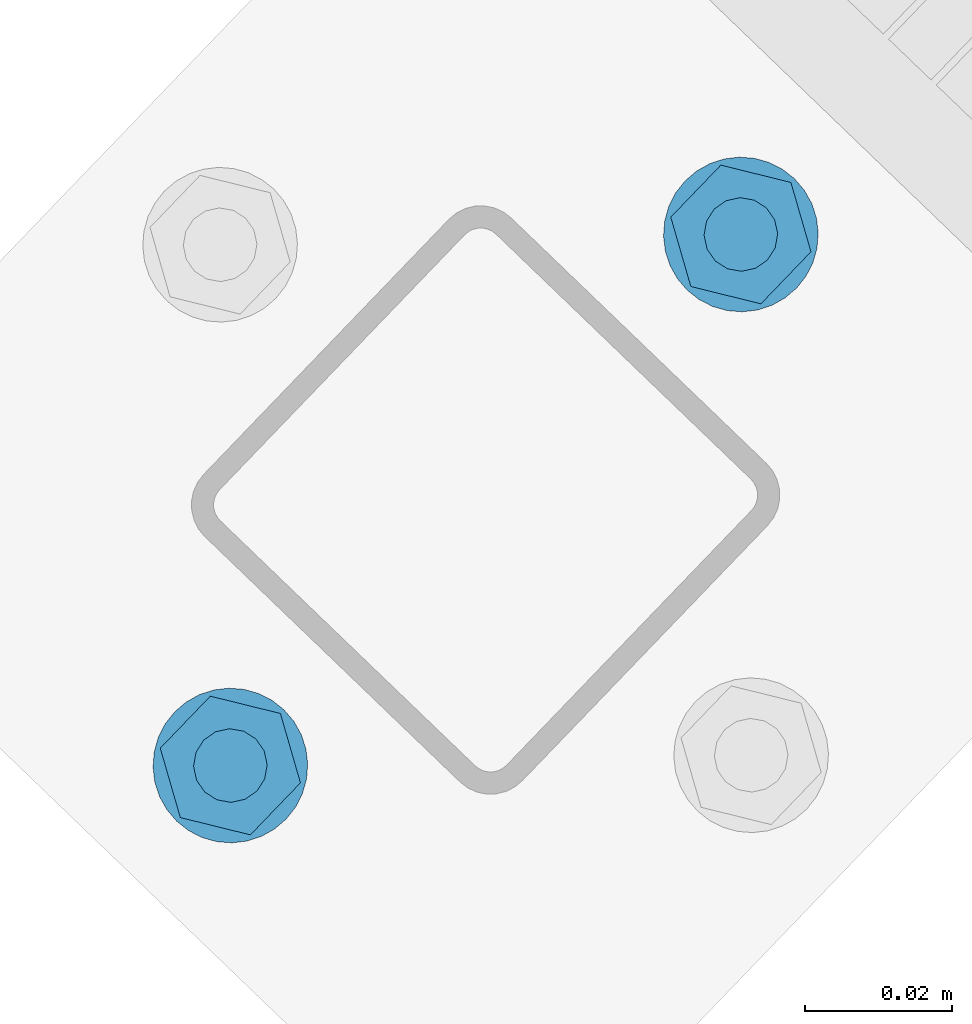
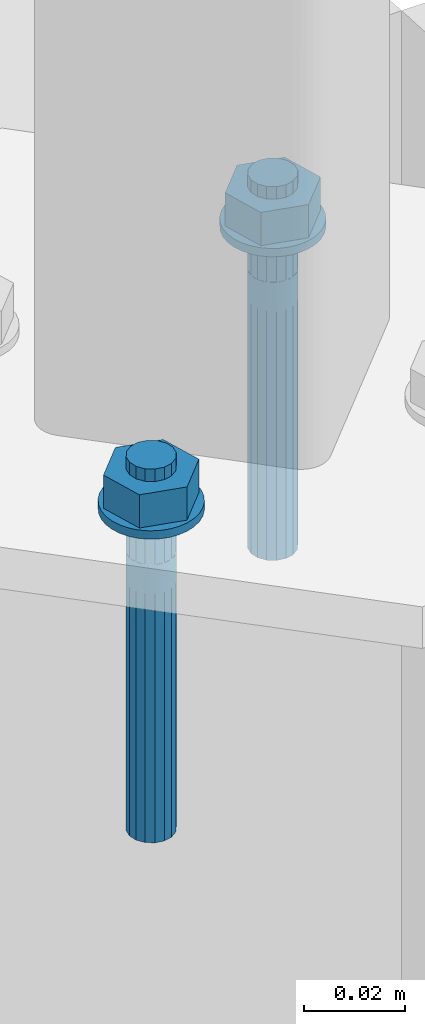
# One storey, part 190 of 288: 2 mechanical fasteners.
"""IFC2X3 building model written with IfcOpenShell, lengths in millimetres."""

from ifc_helpers import new_model, entity, si_unit, converted_unit, origin_with_axes, place, context, project, spatial, faceted_brep, element, save


model = new_model("IFC2X3")

# Units and contexts
model_context = context("Model", 3, precision=1e-09, world=origin_with_axes())
ifc_project = project(units=[si_unit("LENGTHUNIT", "METRE", prefix="MILLI"), si_unit("AREAUNIT", "SQUARE_METRE"), si_unit("VOLUMEUNIT", "CUBIC_METRE"), converted_unit("PLANEANGLEUNIT", "DEGREE", entity("IfcPlaneAngleMeasure", 0.01745329), si_unit("PLANEANGLEUNIT", "RADIAN"), dimensions=[0, 0, 0, 0, 0, 0, 0])], contexts=[model_context])

# Site, building, storey
site_placement = place(None, origin_with_axes())
site = spatial("IfcSite", under=ifc_project, at=site_placement, Name="Remont ?wietlik?w nad MC w NCPP w Opolu", CompositionType="ELEMENT")
building_placement = place(site_placement, origin_with_axes())
building = spatial("IfcBuilding", under=site, at=building_placement, Name="Konstrukcja 1", CompositionType="ELEMENT")
storey_placement = place(building_placement, origin_with_axes())
storey = spatial("IfcBuildingStorey", under=building, at=storey_placement, Name="Default Storey", CompositionType="ELEMENT", Elevation=0.0)

# Mechanical fasteners
mechanical_fastener_1_placement = place(None, origin_with_axes())
element("IfcMechanicalFastener", 1, at=mechanical_fastener_1_placement, inside=storey, ObjectType="Anchor_Bolt", NominalDiameter=10.0, NominalLength=90.0, context=model_context, shape_type="Brep", body=[
    faceted_brep([(-80.926075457, -69.029824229, 22.001000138), (-80.926075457, -69.029824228, 20.001000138), (-82.200250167, -70.646402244, 20.001000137), (-82.200250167, -70.646402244, 22.001000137), (-83.134563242, -72.48049732, 20.001000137), (-83.134563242, -72.48049732, 22.001000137), (-83.693109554, -74.461626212, 20.001000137), (-83.693109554, -74.461626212, 22.001000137), (-83.854424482, -76.513655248, 20.001000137), (-83.854424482, -76.513655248, 22.001000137), (-83.612308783, -78.557726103, 20.001000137), (-83.612308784, -78.557726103, 22.001000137), (-82.976066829, -80.51528628, 20.001000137), (-82.976066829, -80.51528628, 22.001000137), (-81.970149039, -82.311107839, 20.001000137), (-81.97014904, -82.311107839, 22.001000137), (-80.633212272, -83.876178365, 20.001000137), (-80.633212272, -83.876178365, 22.001000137), (-79.016634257, -85.150353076, 20.001000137), (-79.016634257, -85.150353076, 22.001000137), (-77.182539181, -86.08466615, 20.001000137), (-77.182539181, -86.084666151, 22.001000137), (-75.201410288, -86.643212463, 20.001000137), (-75.201410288, -86.643212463, 22.001000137), (-73.149381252, -86.80452739, 20.001000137), (-73.149381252, -86.804527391, 22.001000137), (-71.105310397, -86.562411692, 20.001000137), (-71.105310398, -86.562411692, 22.001000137), (-69.147750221, -85.926169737, 20.001000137), (-69.147750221, -85.926169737, 22.001000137), (-67.351928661, -84.920251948, 20.001000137), (-67.351928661, -84.920251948, 22.001000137), (-65.786858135, -83.58331518, 20.001000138), (-65.786858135, -83.583315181, 22.001000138), (-64.512683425, -81.966737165, 20.001000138), (-64.512683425, -81.966737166, 22.001000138), (-63.57837035, -80.132642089, 20.001000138), (-63.57837035, -80.132642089, 22.001000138), (-63.019824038, -78.151513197, 20.001000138), (-63.019824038, -78.151513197, 22.001000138), (-62.85850911, -76.099484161, 20.001000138), (-62.85850911, -76.099484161, 22.001000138), (-63.100624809, -74.055413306, 20.001000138), (-63.100624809, -74.055413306, 22.001000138), (-63.736866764, -72.097853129, 20.001000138), (-63.736866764, -72.097853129, 22.001000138), (-64.742784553, -70.30203157, 20.001000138), (-64.742784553, -70.30203157, 22.001000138), (-66.07972132, -68.736961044, 20.001000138), (-66.07972132, -68.736961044, 22.001000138), (-67.696299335, -67.462786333, 20.001000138), (-67.696299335, -67.462786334, 22.001000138), (-69.530394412, -66.528473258, 20.001000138), (-69.530394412, -66.528473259, 22.001000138), (-71.511523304, -65.969926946, 20.001000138), (-71.511523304, -65.969926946, 22.001000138), (-73.56355234, -65.808612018, 20.001000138), (-73.56355234, -65.808612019, 22.001000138), (-75.607623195, -66.050727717, 20.001000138), (-75.607623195, -66.050727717, 22.001000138), (-77.565183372, -66.686969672, 20.001000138), (-77.565183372, -66.686969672, 22.001000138), (-79.361004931, -67.692887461, 20.001000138), (-79.361004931, -67.692887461, 22.001000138)], [[[0, 1, 2, 3]], [[3, 2, 4, 5]], [[5, 4, 6, 7]], [[7, 6, 8, 9]], [[9, 8, 10, 11]], [[11, 10, 12, 13]], [[13, 12, 14, 15]], [[15, 14, 16, 17]], [[17, 16, 18, 19]], [[19, 18, 20, 21]], [[21, 20, 22, 23]], [[23, 22, 24, 25]], [[25, 24, 26, 27]], [[27, 26, 28, 29]], [[29, 28, 30, 31]], [[31, 30, 32, 33]], [[33, 32, 34, 35]], [[35, 34, 36, 37]], [[37, 36, 38, 39]], [[39, 38, 40, 41]], [[41, 40, 42, 43]], [[43, 42, 44, 45]], [[45, 44, 46, 47]], [[47, 46, 48, 49]], [[49, 48, 50, 51]], [[51, 50, 52, 53]], [[53, 52, 54, 55]], [[55, 54, 56, 57]], [[57, 56, 58, 59]], [[59, 58, 60, 61]], [[61, 60, 62, 63]], [[63, 62, 1, 0]], [[0, 3, 5, 7, 9, 11, 13, 15, 17, 19, 21, 23, 25, 27, 29, 31, 33, 35, 37, 39, 41, 43, 45, 47, 49, 51, 53, 55, 57, 59, 61, 63]], [[1, 62, 60, 58, 56, 54, 52, 50, 48, 46, 44, 42, 40, 38, 36, 34, 32, 30, 28, 26, 24, 22, 20, 18, 16, 14, 12, 10, 8, 6, 4, 2]]]),
    faceted_brep([(-70.633839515, -85.720777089, 22.001000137), (-70.633839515, -85.72077709, 30.001000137), (-80.148095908, -83.371537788, 30.001000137), (-80.148095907, -83.371537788, 22.001000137), (-82.870723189, -73.957330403, 30.001000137), (-82.870723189, -73.957330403, 22.001000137), (-76.079094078, -66.89236232, 30.001000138), (-76.079094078, -66.89236232, 22.001000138), (-66.564837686, -69.241601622, 30.001000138), (-66.564837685, -69.241601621, 22.001000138), (-63.842210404, -78.655809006, 30.001000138), (-63.842210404, -78.655809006, 22.001000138)], [[[0, 1, 2, 3]], [[3, 2, 4, 5]], [[5, 4, 6, 7]], [[7, 6, 8, 9]], [[9, 8, 10, 11]], [[11, 10, 1, 0]], [[4, 2, 1, 10, 8, 6]], [[0, 3, 5, 7, 9, 11]]]),
    faceted_brep([(-76.961042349, -72.841452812, 33.001000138), (-76.961042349, -72.841452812, 30.001000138), (-78.012703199, -74.484630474, 30.001000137), (-78.0127032, -74.484630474, 33.001000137), (-78.355494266, -76.405181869, 30.001000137), (-78.355494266, -76.405181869, 33.001000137), (-77.937228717, -78.310720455, 30.001000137), (-77.937228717, -78.310720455, 33.001000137), (-76.82158369, -79.911145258, 30.001000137), (-76.82158369, -79.911145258, 33.001000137), (-75.178406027, -80.962806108, 30.001000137), (-75.178406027, -80.962806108, 33.001000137), (-73.257854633, -81.305597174, 30.001000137), (-73.257854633, -81.305597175, 33.001000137), (-71.352316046, -80.887331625, 30.001000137), (-71.352316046, -80.887331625, 33.001000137), (-69.751891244, -79.771686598, 30.001000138), (-69.751891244, -79.771686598, 33.001000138), (-68.700230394, -78.128508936, 30.001000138), (-68.700230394, -78.128508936, 33.001000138), (-68.357439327, -76.207957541, 30.001000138), (-68.357439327, -76.207957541, 33.001000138), (-68.775704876, -74.302418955, 30.001000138), (-68.775704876, -74.302418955, 33.001000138), (-69.891349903, -72.701994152, 30.001000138), (-69.891349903, -72.701994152, 33.001000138), (-71.534527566, -71.650333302, 30.001000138), (-71.534527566, -71.650333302, 33.001000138), (-73.45507896, -71.307542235, 30.001000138), (-73.45507896, -71.307542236, 33.001000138), (-75.360617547, -71.725807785, 30.001000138), (-75.360617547, -71.725807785, 33.001000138)], [[[0, 1, 2, 3]], [[3, 2, 4, 5]], [[5, 4, 6, 7]], [[7, 6, 8, 9]], [[9, 8, 10, 11]], [[11, 10, 12, 13]], [[13, 12, 14, 15]], [[15, 14, 16, 17]], [[17, 16, 18, 19]], [[19, 18, 20, 21]], [[21, 20, 22, 23]], [[23, 22, 24, 25]], [[25, 24, 26, 27]], [[27, 26, 28, 29]], [[29, 28, 30, 31]], [[31, 30, 1, 0]], [[0, 3, 5, 7, 9, 11, 13, 15, 17, 19, 21, 23, 25, 27, 29, 31]], [[1, 30, 28, 26, 24, 22, 20, 18, 16, 14, 12, 10, 8, 6, 4, 2]]]),
    faceted_brep([(-76.961042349, -72.841452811, 20.001000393), (-76.961042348, -72.841452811, 10.001000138), (-78.012703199, -74.484630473, 10.001000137), (-78.012703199, -74.484630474, 20.001000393), (-78.355494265, -76.405181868, 10.001000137), (-78.355494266, -76.405181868, 20.001000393), (-77.937228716, -78.310720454, 10.001000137), (-77.937228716, -78.310720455, 20.001000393), (-76.821583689, -79.911145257, 10.001000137), (-76.82158369, -79.911145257, 20.001000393), (-75.178406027, -80.962806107, 10.001000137), (-75.178406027, -80.962806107, 20.001000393), (-73.257854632, -81.305597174, 10.001000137), (-73.257854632, -81.305597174, 20.001000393), (-71.352316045, -80.887331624, 10.001000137), (-71.352316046, -80.887331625, 20.001000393), (-69.751891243, -79.771686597, 10.001000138), (-69.751891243, -79.771686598, 20.001000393), (-68.700230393, -78.128508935, 10.001000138), (-68.700230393, -78.128508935, 20.001000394), (-68.357439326, -76.20795754, 10.001000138), (-68.357439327, -76.207957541, 20.001000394), (-68.775704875, -74.302418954, 10.001000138), (-68.775704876, -74.302418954, 20.001000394), (-69.891349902, -72.701994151, 10.001000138), (-69.891349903, -72.701994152, 20.001000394), (-71.534527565, -71.650333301, 10.001000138), (-71.534527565, -71.650333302, 20.001000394), (-73.45507896, -71.307542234, 10.001000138), (-73.45507896, -71.307542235, 20.001000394), (-75.360617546, -71.725807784, 10.001000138), (-75.360617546, -71.725807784, 20.001000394)], [[[0, 1, 2, 3]], [[3, 2, 4, 5]], [[5, 4, 6, 7]], [[7, 6, 8, 9]], [[9, 8, 10, 11]], [[11, 10, 12, 13]], [[13, 12, 14, 15]], [[15, 14, 16, 17]], [[17, 16, 18, 19]], [[19, 18, 20, 21]], [[21, 20, 22, 23]], [[23, 22, 24, 25]], [[25, 24, 26, 27]], [[27, 26, 28, 29]], [[29, 28, 30, 31]], [[31, 30, 1, 0]], [[0, 3, 5, 7, 9, 11, 13, 15, 17, 19, 21, 23, 25, 27, 29, 31]], [[1, 30, 28, 26, 24, 22, 20, 18, 16, 14, 12, 10, 8, 6, 4, 2]]]),
    faceted_brep([(-76.961042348, -72.841452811, 10.000999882), (-76.961042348, -72.84145281, 3.001000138), (-77.56779221, -73.611251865, 3.001000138), (-77.567792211, -73.611251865, 10.000999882), (-78.012703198, -74.484630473, 3.001000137), (-78.012703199, -74.484630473, 10.000999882), (-78.278677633, -75.428025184, 3.001000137), (-78.278677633, -75.428025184, 10.000999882), (-78.355494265, -76.405181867, 3.001000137), (-78.355494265, -76.405181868, 10.000999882), (-78.240201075, -77.378548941, 3.001000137), (-78.240201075, -77.378548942, 10.000999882), (-77.937228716, -78.310720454, 3.001000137), (-77.937228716, -78.310720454, 10.000999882), (-77.458220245, -79.165873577, 3.001000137), (-77.458220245, -79.165873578, 10.000999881), (-76.821583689, -79.911145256, 3.001000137), (-76.821583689, -79.911145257, 10.000999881), (-76.051784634, -80.517895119, 3.001000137), (-76.051784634, -80.517895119, 10.000999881), (-75.178406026, -80.962806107, 3.001000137), (-75.178406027, -80.962806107, 10.000999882), (-74.235011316, -81.228780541, 3.001000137), (-74.235011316, -81.228780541, 10.000999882), (-73.257854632, -81.305597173, 3.001000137), (-73.257854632, -81.305597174, 10.000999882), (-72.284487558, -81.190303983, 3.001000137), (-72.284487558, -81.190303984, 10.000999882), (-71.352316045, -80.887331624, 3.001000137), (-71.352316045, -80.887331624, 10.000999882), (-70.497162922, -80.408323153, 3.001000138), (-70.497162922, -80.408323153, 10.000999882), (-69.751891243, -79.771686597, 3.001000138), (-69.751891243, -79.771686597, 10.000999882), (-69.145141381, -79.001887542, 3.001000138), (-69.145141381, -79.001887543, 10.000999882), (-68.700230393, -78.128508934, 3.001000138), (-68.700230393, -78.128508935, 10.000999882), (-68.434255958, -77.185114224, 3.001000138), (-68.434255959, -77.185114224, 10.000999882), (-68.357439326, -76.20795754, 3.001000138), (-68.357439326, -76.20795754, 10.000999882), (-68.472732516, -75.234590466, 3.001000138), (-68.472732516, -75.234590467, 10.000999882), (-68.775704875, -74.302418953, 3.001000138), (-68.775704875, -74.302418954, 10.000999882), (-69.254713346, -73.44726583, 3.001000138), (-69.254713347, -73.44726583, 10.000999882), (-69.891349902, -72.701994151, 3.001000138), (-69.891349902, -72.701994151, 10.000999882), (-70.661148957, -72.095244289, 3.001000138), (-70.661148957, -72.095244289, 10.000999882), (-71.534527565, -71.650333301, 3.001000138), (-71.534527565, -71.650333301, 10.000999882), (-72.477922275, -71.384358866, 3.001000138), (-72.477922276, -71.384358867, 10.000999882), (-73.455078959, -71.307542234, 3.001000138), (-73.45507896, -71.307542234, 10.000999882), (-74.428446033, -71.422835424, 3.001000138), (-74.428446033, -71.422835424, 10.000999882), (-75.360617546, -71.725807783, 3.001000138), (-75.360617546, -71.725807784, 10.000999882), (-76.215770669, -72.204816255, 3.001000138), (-76.215770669, -72.204816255, 10.000999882)], [[[0, 1, 2, 3]], [[3, 2, 4, 5]], [[5, 4, 6, 7]], [[7, 6, 8, 9]], [[9, 8, 10, 11]], [[11, 10, 12, 13]], [[13, 12, 14, 15]], [[15, 14, 16, 17]], [[17, 16, 18, 19]], [[19, 18, 20, 21]], [[21, 20, 22, 23]], [[23, 22, 24, 25]], [[25, 24, 26, 27]], [[27, 26, 28, 29]], [[29, 28, 30, 31]], [[31, 30, 32, 33]], [[33, 32, 34, 35]], [[35, 34, 36, 37]], [[37, 36, 38, 39]], [[39, 38, 40, 41]], [[41, 40, 42, 43]], [[43, 42, 44, 45]], [[45, 44, 46, 47]], [[47, 46, 48, 49]], [[49, 48, 50, 51]], [[51, 50, 52, 53]], [[53, 52, 54, 55]], [[55, 54, 56, 57]], [[57, 56, 58, 59]], [[59, 58, 60, 61]], [[61, 60, 62, 63]], [[63, 62, 1, 0]], [[0, 3, 5, 7, 9, 11, 13, 15, 17, 19, 21, 23, 25, 27, 29, 31, 33, 35, 37, 39, 41, 43, 45, 47, 49, 51, 53, 55, 57, 59, 61, 63]], [[1, 62, 60, 58, 56, 54, 52, 50, 48, 46, 44, 42, 40, 38, 36, 34, 32, 30, 28, 26, 24, 22, 20, 18, 16, 14, 12, 10, 8, 6, 4, 2]]]),
    faceted_brep([(-76.961042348, -72.84145281, 3.001000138), (-76.961042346, -72.841452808, -56.998999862), (-78.012703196, -74.48463047, -56.998999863), (-78.012703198, -74.484630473, 3.001000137), (-78.355494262, -76.405181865, -56.998999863), (-78.355494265, -76.405181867, 3.001000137), (-77.937228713, -78.310720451, -56.998999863), (-77.937228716, -78.310720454, 3.001000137), (-76.821583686, -79.911145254, -56.998999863), (-76.821583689, -79.911145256, 3.001000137), (-75.178406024, -80.962806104, -56.998999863), (-75.178406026, -80.962806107, 3.001000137), (-73.257854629, -81.305597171, -56.998999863), (-73.257854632, -81.305597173, 3.001000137), (-71.352316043, -80.887331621, -56.998999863), (-71.352316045, -80.887331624, 3.001000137), (-69.75189124, -79.771686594, -56.998999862), (-69.751891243, -79.771686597, 3.001000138), (-68.70023039, -78.128508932, -56.998999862), (-68.700230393, -78.128508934, 3.001000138), (-68.357439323, -76.207957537, -56.998999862), (-68.357439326, -76.20795754, 3.001000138), (-68.775704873, -74.302418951, -56.998999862), (-68.775704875, -74.302418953, 3.001000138), (-69.8913499, -72.701994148, -56.998999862), (-69.891349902, -72.701994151, 3.001000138), (-71.534527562, -71.650333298, -56.998999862), (-71.534527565, -71.650333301, 3.001000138), (-73.455078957, -71.307542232, -56.998999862), (-73.455078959, -71.307542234, 3.001000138), (-75.360617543, -71.725807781, -56.998999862), (-75.360617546, -71.725807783, 3.001000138)], [[[0, 1, 2, 3]], [[3, 2, 4, 5]], [[5, 4, 6, 7]], [[7, 6, 8, 9]], [[9, 8, 10, 11]], [[11, 10, 12, 13]], [[13, 12, 14, 15]], [[15, 14, 16, 17]], [[17, 16, 18, 19]], [[19, 18, 20, 21]], [[21, 20, 22, 23]], [[23, 22, 24, 25]], [[25, 24, 26, 27]], [[27, 26, 28, 29]], [[29, 28, 30, 31]], [[31, 30, 1, 0]], [[0, 3, 5, 7, 9, 11, 13, 15, 17, 19, 21, 23, 25, 27, 29, 31]], [[1, 30, 28, 26, 24, 22, 20, 18, 16, 14, 12, 10, 8, 6, 4, 2]]]),
])
mechanical_fastener_2_placement = place(None, origin_with_axes())
element("IfcMechanicalFastener", 2, at=mechanical_fastener_2_placement, inside=storey, ObjectType="Anchor_Bolt", NominalDiameter=10.0, NominalLength=90.0, context=model_context, shape_type="Brep", body=[
    faceted_brep([(-150.228413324, -141.121335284, 22.001000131), (-150.228413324, -141.121335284, 20.001000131), (-151.502588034, -142.737913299, 20.001000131), (-151.502588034, -142.737913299, 22.001000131), (-152.436901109, -144.572008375, 20.001000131), (-152.436901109, -144.572008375, 22.001000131), (-152.995447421, -146.553137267, 20.001000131), (-152.995447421, -146.553137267, 22.001000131), (-153.156762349, -148.605166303, 20.001000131), (-153.156762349, -148.605166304, 22.001000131), (-152.91464665, -150.649237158, 20.001000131), (-152.91464665, -150.649237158, 22.001000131), (-152.278404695, -152.606797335, 20.001000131), (-152.278404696, -152.606797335, 22.001000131), (-151.272486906, -154.402618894, 20.001000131), (-151.272486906, -154.402618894, 22.001000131), (-149.935550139, -155.96768942, 20.001000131), (-149.935550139, -155.96768942, 22.001000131), (-148.318972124, -157.241864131, 20.001000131), (-148.318972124, -157.241864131, 22.001000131), (-146.484877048, -158.176177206, 20.001000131), (-146.484877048, -158.176177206, 22.001000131), (-144.503748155, -158.734723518, 20.001000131), (-144.503748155, -158.734723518, 22.001000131), (-142.451719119, -158.896038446, 20.001000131), (-142.451719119, -158.896038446, 22.001000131), (-140.407648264, -158.653922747, 20.001000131), (-140.407648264, -158.653922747, 22.001000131), (-138.450088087, -158.017680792, 20.001000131), (-138.450088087, -158.017680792, 22.001000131), (-136.654266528, -157.011763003, 20.001000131), (-136.654266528, -157.011763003, 22.001000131), (-135.089196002, -155.674826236, 20.001000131), (-135.089196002, -155.674826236, 22.001000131), (-133.815021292, -154.05824822, 20.001000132), (-133.815021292, -154.058248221, 22.001000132), (-132.880708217, -152.224153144, 20.001000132), (-132.880708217, -152.224153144, 22.001000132), (-132.322161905, -150.243024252, 20.001000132), (-132.322161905, -150.243024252, 22.001000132), (-132.160846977, -148.190995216, 20.001000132), (-132.160846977, -148.190995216, 22.001000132), (-132.402962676, -146.146924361, 20.001000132), (-132.402962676, -146.146924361, 22.001000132), (-133.03920463, -144.189364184, 20.001000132), (-133.03920463, -144.189364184, 22.001000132), (-134.04512242, -142.393542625, 20.001000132), (-134.04512242, -142.393542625, 22.001000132), (-135.382059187, -140.828472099, 20.001000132), (-135.382059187, -140.828472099, 22.001000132), (-136.998637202, -139.554297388, 20.001000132), (-136.998637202, -139.554297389, 22.001000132), (-138.832732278, -138.619984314, 20.001000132), (-138.832732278, -138.619984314, 22.001000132), (-140.813861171, -138.061438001, 20.001000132), (-140.813861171, -138.061438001, 22.001000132), (-142.865890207, -137.900123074, 20.001000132), (-142.865890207, -137.900123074, 22.001000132), (-144.909961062, -138.142238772, 20.001000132), (-144.909961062, -138.142238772, 22.001000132), (-146.867521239, -138.778480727, 20.001000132), (-146.867521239, -138.778480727, 22.001000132), (-148.663342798, -139.784398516, 20.001000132), (-148.663342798, -139.784398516, 22.001000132)], [[[0, 1, 2, 3]], [[3, 2, 4, 5]], [[5, 4, 6, 7]], [[7, 6, 8, 9]], [[9, 8, 10, 11]], [[11, 10, 12, 13]], [[13, 12, 14, 15]], [[15, 14, 16, 17]], [[17, 16, 18, 19]], [[19, 18, 20, 21]], [[21, 20, 22, 23]], [[23, 22, 24, 25]], [[25, 24, 26, 27]], [[27, 26, 28, 29]], [[29, 28, 30, 31]], [[31, 30, 32, 33]], [[33, 32, 34, 35]], [[35, 34, 36, 37]], [[37, 36, 38, 39]], [[39, 38, 40, 41]], [[41, 40, 42, 43]], [[43, 42, 44, 45]], [[45, 44, 46, 47]], [[47, 46, 48, 49]], [[49, 48, 50, 51]], [[51, 50, 52, 53]], [[53, 52, 54, 55]], [[55, 54, 56, 57]], [[57, 56, 58, 59]], [[59, 58, 60, 61]], [[61, 60, 62, 63]], [[63, 62, 1, 0]], [[0, 3, 5, 7, 9, 11, 13, 15, 17, 19, 21, 23, 25, 27, 29, 31, 33, 35, 37, 39, 41, 43, 45, 47, 49, 51, 53, 55, 57, 59, 61, 63]], [[1, 62, 60, 58, 56, 54, 52, 50, 48, 46, 44, 42, 40, 38, 36, 34, 32, 30, 28, 26, 24, 22, 20, 18, 16, 14, 12, 10, 8, 6, 4, 2]]]),
    faceted_brep([(-139.936177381, -157.812288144, 22.001000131), (-139.936177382, -157.812288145, 30.001000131), (-149.450433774, -155.463048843, 30.001000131), (-149.450433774, -155.463048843, 22.001000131), (-152.173061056, -146.048841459, 30.001000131), (-152.173061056, -146.048841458, 22.001000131), (-145.381431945, -138.983873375, 30.001000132), (-145.381431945, -138.983873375, 22.001000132), (-135.867175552, -141.333112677, 30.001000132), (-135.867175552, -141.333112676, 22.001000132), (-133.144548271, -150.747320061, 30.001000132), (-133.14454827, -150.747320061, 22.001000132)], [[[0, 1, 2, 3]], [[3, 2, 4, 5]], [[5, 4, 6, 7]], [[7, 6, 8, 9]], [[9, 8, 10, 11]], [[11, 10, 1, 0]], [[4, 2, 1, 10, 8, 6]], [[0, 3, 5, 7, 9, 11]]]),
    faceted_brep([(-146.263380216, -144.932963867, 33.001000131), (-146.263380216, -144.932963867, 30.001000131), (-147.315041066, -146.576141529, 30.001000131), (-147.315041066, -146.576141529, 33.001000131), (-147.657832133, -148.496692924, 30.001000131), (-147.657832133, -148.496692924, 33.001000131), (-147.239566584, -150.40223151, 30.001000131), (-147.239566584, -150.40223151, 33.001000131), (-146.123921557, -152.002656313, 30.001000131), (-146.123921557, -152.002656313, 33.001000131), (-144.480743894, -153.054317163, 30.001000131), (-144.480743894, -153.054317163, 33.001000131), (-142.5601925, -153.39710823, 30.001000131), (-142.5601925, -153.39710823, 33.001000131), (-140.654653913, -152.97884268, 30.001000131), (-140.654653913, -152.97884268, 33.001000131), (-139.054229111, -151.863197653, 30.001000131), (-139.054229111, -151.863197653, 33.001000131), (-138.00256826, -150.220019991, 30.001000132), (-138.002568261, -150.220019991, 33.001000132), (-137.659777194, -148.299468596, 30.001000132), (-137.659777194, -148.299468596, 33.001000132), (-138.078042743, -146.39393001, 30.001000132), (-138.078042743, -146.39393001, 33.001000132), (-139.19368777, -144.793505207, 30.001000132), (-139.19368777, -144.793505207, 33.001000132), (-140.836865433, -143.741844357, 30.001000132), (-140.836865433, -143.741844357, 33.001000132), (-142.757416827, -143.39905329, 30.001000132), (-142.757416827, -143.399053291, 33.001000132), (-144.662955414, -143.81731884, 30.001000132), (-144.662955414, -143.81731884, 33.001000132)], [[[0, 1, 2, 3]], [[3, 2, 4, 5]], [[5, 4, 6, 7]], [[7, 6, 8, 9]], [[9, 8, 10, 11]], [[11, 10, 12, 13]], [[13, 12, 14, 15]], [[15, 14, 16, 17]], [[17, 16, 18, 19]], [[19, 18, 20, 21]], [[21, 20, 22, 23]], [[23, 22, 24, 25]], [[25, 24, 26, 27]], [[27, 26, 28, 29]], [[29, 28, 30, 31]], [[31, 30, 1, 0]], [[0, 3, 5, 7, 9, 11, 13, 15, 17, 19, 21, 23, 25, 27, 29, 31]], [[1, 30, 28, 26, 24, 22, 20, 18, 16, 14, 12, 10, 8, 6, 4, 2]]]),
    faceted_brep([(-146.263380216, -144.932963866, 20.001000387), (-146.263380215, -144.932963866, 10.001000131), (-147.315041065, -146.576141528, 10.001000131), (-147.315041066, -146.576141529, 20.001000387), (-147.657832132, -148.496692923, 10.001000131), (-147.657832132, -148.496692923, 20.001000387), (-147.239566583, -150.402231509, 10.001000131), (-147.239566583, -150.40223151, 20.001000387), (-146.123921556, -152.002656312, 10.001000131), (-146.123921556, -152.002656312, 20.001000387), (-144.480743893, -153.054317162, 10.001000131), (-144.480743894, -153.054317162, 20.001000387), (-142.560192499, -153.397108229, 10.001000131), (-142.560192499, -153.397108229, 20.001000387), (-140.654653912, -152.978842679, 10.001000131), (-140.654653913, -152.97884268, 20.001000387), (-139.05422911, -151.863197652, 10.001000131), (-139.05422911, -151.863197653, 20.001000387), (-138.00256826, -150.22001999, 10.001000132), (-138.00256826, -150.22001999, 20.001000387), (-137.659777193, -148.299468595, 10.001000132), (-137.659777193, -148.299468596, 20.001000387), (-138.078042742, -146.393930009, 10.001000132), (-138.078042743, -146.393930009, 20.001000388), (-139.193687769, -144.793505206, 10.001000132), (-139.19368777, -144.793505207, 20.001000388), (-140.836865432, -143.741844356, 10.001000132), (-140.836865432, -143.741844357, 20.001000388), (-142.757416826, -143.39905329, 10.001000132), (-142.757416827, -143.39905329, 20.001000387), (-144.662955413, -143.817318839, 10.001000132), (-144.662955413, -143.817318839, 20.001000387)], [[[0, 1, 2, 3]], [[3, 2, 4, 5]], [[5, 4, 6, 7]], [[7, 6, 8, 9]], [[9, 8, 10, 11]], [[11, 10, 12, 13]], [[13, 12, 14, 15]], [[15, 14, 16, 17]], [[17, 16, 18, 19]], [[19, 18, 20, 21]], [[21, 20, 22, 23]], [[23, 22, 24, 25]], [[25, 24, 26, 27]], [[27, 26, 28, 29]], [[29, 28, 30, 31]], [[31, 30, 1, 0]], [[0, 3, 5, 7, 9, 11, 13, 15, 17, 19, 21, 23, 25, 27, 29, 31]], [[1, 30, 28, 26, 24, 22, 20, 18, 16, 14, 12, 10, 8, 6, 4, 2]]]),
    faceted_brep([(-146.263380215, -144.932963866, 10.000999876), (-146.263380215, -144.932963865, 3.001000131), (-146.870130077, -145.70276292, 3.001000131), (-146.870130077, -145.702762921, 10.000999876), (-147.315041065, -146.576141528, 3.001000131), (-147.315041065, -146.576141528, 10.000999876), (-147.581015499, -147.519536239, 3.001000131), (-147.5810155, -147.519536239, 10.000999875), (-147.657832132, -148.496692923, 3.001000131), (-147.657832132, -148.496692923, 10.000999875), (-147.542538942, -149.470059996, 3.001000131), (-147.542538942, -149.470059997, 10.000999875), (-147.239566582, -150.402231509, 3.001000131), (-147.239566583, -150.402231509, 10.000999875), (-146.760558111, -151.257384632, 3.001000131), (-146.760558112, -151.257384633, 10.000999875), (-146.123921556, -152.002656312, 3.001000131), (-146.123921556, -152.002656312, 10.000999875), (-145.354122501, -152.609406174, 3.001000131), (-145.354122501, -152.609406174, 10.000999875), (-144.480743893, -153.054317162, 3.001000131), (-144.480743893, -153.054317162, 10.000999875), (-143.537349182, -153.320291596, 3.001000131), (-143.537349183, -153.320291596, 10.000999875), (-142.560192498, -153.397108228, 3.001000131), (-142.560192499, -153.397108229, 10.000999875), (-141.586825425, -153.281815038, 3.001000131), (-141.586825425, -153.281815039, 10.000999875), (-140.654653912, -152.978842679, 3.001000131), (-140.654653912, -152.978842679, 10.000999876), (-139.799500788, -152.499834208, 3.001000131), (-139.799500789, -152.499834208, 10.000999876), (-139.054229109, -151.863197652, 3.001000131), (-139.05422911, -151.863197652, 10.000999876), (-138.447479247, -151.093398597, 3.001000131), (-138.447479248, -151.093398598, 10.000999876), (-138.002568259, -150.22001999, 3.001000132), (-138.00256826, -150.22001999, 10.000999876), (-137.736593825, -149.276625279, 3.001000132), (-137.736593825, -149.276625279, 10.000999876), (-137.659777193, -148.299468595, 3.001000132), (-137.659777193, -148.299468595, 10.000999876), (-137.775070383, -147.326101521, 3.001000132), (-137.775070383, -147.326101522, 10.000999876), (-138.078042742, -146.393930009, 3.001000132), (-138.078042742, -146.393930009, 10.000999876), (-138.557051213, -145.538776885, 3.001000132), (-138.557051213, -145.538776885, 10.000999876), (-139.193687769, -144.793505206, 3.001000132), (-139.193687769, -144.793505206, 10.000999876), (-139.963486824, -144.186755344, 3.001000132), (-139.963486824, -144.186755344, 10.000999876), (-140.836865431, -143.741844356, 3.001000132), (-140.836865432, -143.741844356, 10.000999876), (-141.780260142, -143.475869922, 3.001000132), (-141.780260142, -143.475869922, 10.000999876), (-142.757416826, -143.399053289, 3.001000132), (-142.757416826, -143.39905329, 10.000999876), (-143.7307839, -143.514346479, 3.001000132), (-143.7307839, -143.514346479, 10.000999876), (-144.662955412, -143.817318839, 3.001000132), (-144.662955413, -143.817318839, 10.000999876), (-145.518108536, -144.29632731, 3.001000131), (-145.518108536, -144.29632731, 10.000999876)], [[[0, 1, 2, 3]], [[3, 2, 4, 5]], [[5, 4, 6, 7]], [[7, 6, 8, 9]], [[9, 8, 10, 11]], [[11, 10, 12, 13]], [[13, 12, 14, 15]], [[15, 14, 16, 17]], [[17, 16, 18, 19]], [[19, 18, 20, 21]], [[21, 20, 22, 23]], [[23, 22, 24, 25]], [[25, 24, 26, 27]], [[27, 26, 28, 29]], [[29, 28, 30, 31]], [[31, 30, 32, 33]], [[33, 32, 34, 35]], [[35, 34, 36, 37]], [[37, 36, 38, 39]], [[39, 38, 40, 41]], [[41, 40, 42, 43]], [[43, 42, 44, 45]], [[45, 44, 46, 47]], [[47, 46, 48, 49]], [[49, 48, 50, 51]], [[51, 50, 52, 53]], [[53, 52, 54, 55]], [[55, 54, 56, 57]], [[57, 56, 58, 59]], [[59, 58, 60, 61]], [[61, 60, 62, 63]], [[63, 62, 1, 0]], [[0, 3, 5, 7, 9, 11, 13, 15, 17, 19, 21, 23, 25, 27, 29, 31, 33, 35, 37, 39, 41, 43, 45, 47, 49, 51, 53, 55, 57, 59, 61, 63]], [[1, 62, 60, 58, 56, 54, 52, 50, 48, 46, 44, 42, 40, 38, 36, 34, 32, 30, 28, 26, 24, 22, 20, 18, 16, 14, 12, 10, 8, 6, 4, 2]]]),
    faceted_brep([(-146.263380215, -144.932963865, 3.001000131), (-146.263380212, -144.932963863, -56.998999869), (-147.315041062, -146.576141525, -56.998999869), (-147.315041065, -146.576141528, 3.001000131), (-147.657832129, -148.49669292, -56.998999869), (-147.657832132, -148.496692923, 3.001000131), (-147.23956658, -150.402231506, -56.998999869), (-147.239566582, -150.402231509, 3.001000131), (-146.123921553, -152.002656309, -56.998999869), (-146.123921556, -152.002656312, 3.001000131), (-144.48074389, -153.054317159, -56.998999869), (-144.480743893, -153.054317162, 3.001000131), (-142.560192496, -153.397108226, -56.998999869), (-142.560192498, -153.397108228, 3.001000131), (-140.654653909, -152.978842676, -56.998999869), (-140.654653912, -152.978842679, 3.001000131), (-139.054229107, -151.863197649, -56.998999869), (-139.054229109, -151.863197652, 3.001000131), (-138.002568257, -150.220019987, -56.998999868), (-138.002568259, -150.22001999, 3.001000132), (-137.65977719, -148.299468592, -56.998999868), (-137.659777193, -148.299468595, 3.001000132), (-138.078042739, -146.393930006, -56.998999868), (-138.078042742, -146.393930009, 3.001000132), (-139.193687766, -144.793505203, -56.998999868), (-139.193687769, -144.793505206, 3.001000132), (-140.836865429, -143.741844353, -56.998999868), (-140.836865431, -143.741844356, 3.001000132), (-142.757416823, -143.399053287, -56.998999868), (-142.757416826, -143.399053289, 3.001000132), (-144.66295541, -143.817318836, -56.998999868), (-144.662955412, -143.817318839, 3.001000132)], [[[0, 1, 2, 3]], [[3, 2, 4, 5]], [[5, 4, 6, 7]], [[7, 6, 8, 9]], [[9, 8, 10, 11]], [[11, 10, 12, 13]], [[13, 12, 14, 15]], [[15, 14, 16, 17]], [[17, 16, 18, 19]], [[19, 18, 20, 21]], [[21, 20, 22, 23]], [[23, 22, 24, 25]], [[25, 24, 26, 27]], [[27, 26, 28, 29]], [[29, 28, 30, 31]], [[31, 30, 1, 0]], [[0, 3, 5, 7, 9, 11, 13, 15, 17, 19, 21, 23, 25, 27, 29, 31]], [[1, 30, 28, 26, 24, 22, 20, 18, 16, 14, 12, 10, 8, 6, 4, 2]]]),
])

save(model, "model.ifc")
